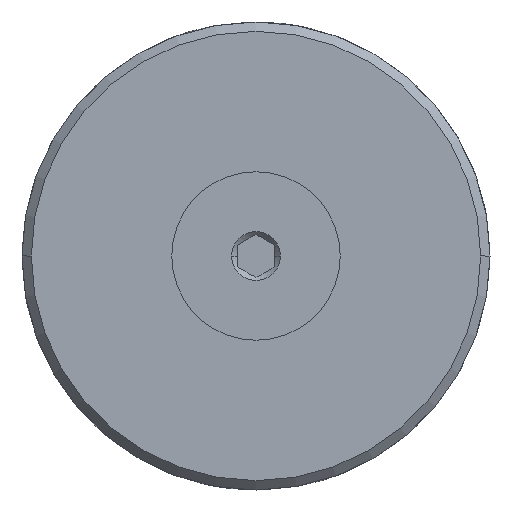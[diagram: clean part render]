
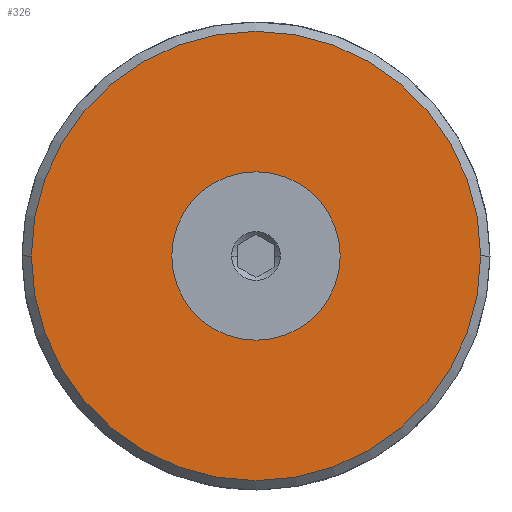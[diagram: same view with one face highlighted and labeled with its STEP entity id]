
A CAD part, front view. The second image highlights one B-rep face of the part: STEP entity #326.
In plain terms, the highlighted planar face has unit normal (0, -1, 0).
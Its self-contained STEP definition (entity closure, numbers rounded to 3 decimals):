
#15 = AXIS2_PLACEMENT_3D ( 'NONE', #1710, #480, #1939 ) ;
#20 = CARTESIAN_POINT ( 'NONE',  ( 0., 0., 0. ) ) ;
#61 = DIRECTION ( 'NONE',  ( 0., 0., 1. ) ) ;
#193 = CIRCLE ( 'NONE', #1385, 24. ) ;
#326 = ADVANCED_FACE ( 'NONE', ( #835, #425 ), #2271, .F. ) ;
#334 = CARTESIAN_POINT ( 'NONE',  ( 0., 0., 24. ) ) ;
#378 = CARTESIAN_POINT ( 'NONE',  ( 0., 0., -5.25 ) ) ;
#388 = DIRECTION ( 'NONE',  ( 0., 1., 0. ) ) ;
#395 = VERTEX_POINT ( 'NONE', #334 ) ;
#409 = CARTESIAN_POINT ( 'NONE',  ( 0., 0., -24. ) ) ;
#425 = FACE_OUTER_BOUND ( 'NONE', #1757, .T. ) ;
#480 = DIRECTION ( 'NONE',  ( 0., -1., 0. ) ) ;
#484 = EDGE_CURVE ( 'NONE', #2083, #705, #1296, .T. ) ;
#491 = ORIENTED_EDGE ( 'NONE', *, *, #2295, .T. ) ;
#688 = CARTESIAN_POINT ( 'NONE',  ( 0., 0., 0. ) ) ;
#705 = VERTEX_POINT ( 'NONE', #1635 ) ;
#707 = AXIS2_PLACEMENT_3D ( 'NONE', #688, #2525, #1717 ) ;
#820 = EDGE_CURVE ( 'NONE', #705, #2083, #850, .T. ) ;
#822 = CARTESIAN_POINT ( 'NONE',  ( 0., 0., 0. ) ) ;
#835 = FACE_BOUND ( 'NONE', #1041, .T. ) ;
#850 = CIRCLE ( 'NONE', #707, 5.25 ) ;
#887 = DIRECTION ( 'NONE',  ( 0., -1., 0. ) ) ;
#938 = ORIENTED_EDGE ( 'NONE', *, *, #1503, .T. ) ;
#958 = ORIENTED_EDGE ( 'NONE', *, *, #484, .T. ) ;
#1041 = EDGE_LOOP ( 'NONE', ( #958, #2187 ) ) ;
#1200 = AXIS2_PLACEMENT_3D ( 'NONE', #20, #1531, #61 ) ;
#1257 = DIRECTION ( 'NONE',  ( 0., 0., 1. ) ) ;
#1296 = CIRCLE ( 'NONE', #1200, 5.25 ) ;
#1322 = DIRECTION ( 'NONE',  ( 0., 0., 1. ) ) ;
#1385 = AXIS2_PLACEMENT_3D ( 'NONE', #1760, #887, #1322 ) ;
#1503 = EDGE_CURVE ( 'NONE', #395, #1796, #193, .T. ) ;
#1507 = AXIS2_PLACEMENT_3D ( 'NONE', #822, #388, #1257 ) ;
#1531 = DIRECTION ( 'NONE',  ( 0., 1., 0. ) ) ;
#1635 = CARTESIAN_POINT ( 'NONE',  ( 0., 0., 5.25 ) ) ;
#1710 = CARTESIAN_POINT ( 'NONE',  ( 0., 0., 0. ) ) ;
#1717 = DIRECTION ( 'NONE',  ( 0., 0., 1. ) ) ;
#1757 = EDGE_LOOP ( 'NONE', ( #938, #491 ) ) ;
#1760 = CARTESIAN_POINT ( 'NONE',  ( 0., 0., 0. ) ) ;
#1796 = VERTEX_POINT ( 'NONE', #409 ) ;
#1939 = DIRECTION ( 'NONE',  ( 0., 0., 1. ) ) ;
#1943 = CIRCLE ( 'NONE', #15, 24. ) ;
#2083 = VERTEX_POINT ( 'NONE', #378 ) ;
#2187 = ORIENTED_EDGE ( 'NONE', *, *, #820, .T. ) ;
#2271 = PLANE ( 'NONE',  #1507 ) ;
#2295 = EDGE_CURVE ( 'NONE', #1796, #395, #1943, .T. ) ;
#2525 = DIRECTION ( 'NONE',  ( 0., 1., 0. ) ) ;
